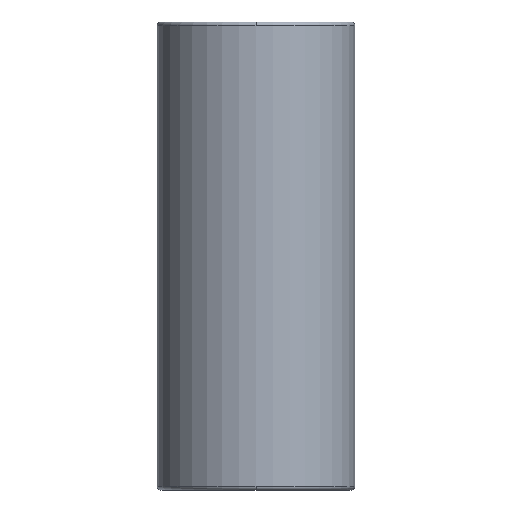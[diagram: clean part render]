
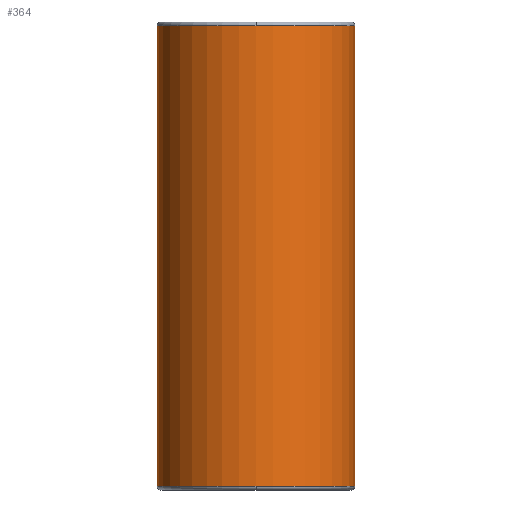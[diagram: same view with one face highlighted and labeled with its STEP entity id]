
A CAD part, front view. The second image highlights one B-rep face of the part: STEP entity #364.
In plain terms, the highlighted cylindrical face has radius 55.992 mm (diameter 111.984 mm), a partial arc.
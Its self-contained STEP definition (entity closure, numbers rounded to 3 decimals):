
#269=CARTESIAN_POINT('',(0.0,-55.992,263.0));
#270=VERTEX_POINT('',#269);
#296=CARTESIAN_POINT('',(-55.992,0.,263.0));
#297=VERTEX_POINT('',#296);
#305=CARTESIAN_POINT('',(0.0,0.,263.0));
#306=DIRECTION('',(0.0,0.0,1.0));
#307=DIRECTION('',(1.0,0.0,0.0));
#308=AXIS2_PLACEMENT_3D('',#305,#306,#307);
#309=CIRCLE('',#308,55.992);
#310=EDGE_CURVE('',#297,#270,#309,.T.);
#315=CARTESIAN_POINT('',(0.0,0.,132.5));
#316=DIRECTION('',(0.0,0.,1.0));
#317=DIRECTION('',(1.0,0.0,0.0));
#318=AXIS2_PLACEMENT_3D('',#315,#316,#317);
#319=CYLINDRICAL_SURFACE('',#318,55.992);
#320=CARTESIAN_POINT('',(55.992,0.,263.0));
#321=VERTEX_POINT('',#320);
#322=CARTESIAN_POINT('',(55.992,0.,2.));
#323=VERTEX_POINT('',#322);
#324=CARTESIAN_POINT('',(55.992,0.,263.0));
#325=DIRECTION('',(0.0,0.0,-1.0));
#326=VECTOR('',#325,261.0);
#327=LINE('',#324,#326);
#328=EDGE_CURVE('',#321,#323,#327,.T.);
#329=ORIENTED_EDGE('',*,*,#328,.F.);
#330=CARTESIAN_POINT('',(0.0,0.,263.0));
#331=DIRECTION('',(0.0,0.0,1.0));
#332=DIRECTION('',(1.0,0.0,0.0));
#333=AXIS2_PLACEMENT_3D('',#330,#331,#332);
#334=CIRCLE('',#333,55.992);
#335=EDGE_CURVE('',#270,#321,#334,.T.);
#336=ORIENTED_EDGE('',*,*,#335,.F.);
#337=ORIENTED_EDGE('',*,*,#310,.F.);
#338=CARTESIAN_POINT('',(-55.992,0.,2.0));
#339=VERTEX_POINT('',#338);
#340=CARTESIAN_POINT('',(-55.992,0.,263.0));
#341=DIRECTION('',(0.0,0.0,-1.0));
#342=VECTOR('',#341,261.0);
#343=LINE('',#340,#342);
#344=EDGE_CURVE('',#297,#339,#343,.T.);
#345=ORIENTED_EDGE('',*,*,#344,.T.);
#346=CARTESIAN_POINT('',(0.0,-55.992,2.));
#347=VERTEX_POINT('',#346);
#348=CARTESIAN_POINT('',(0.0,0.,2.0));
#349=DIRECTION('',(0.0,0.0,1.0));
#350=DIRECTION('',(1.0,0.0,0.0));
#351=AXIS2_PLACEMENT_3D('',#348,#349,#350);
#352=CIRCLE('',#351,55.992);
#353=EDGE_CURVE('',#339,#347,#352,.T.);
#354=ORIENTED_EDGE('',*,*,#353,.T.);
#355=CARTESIAN_POINT('',(0.0,0.,2.0));
#356=DIRECTION('',(0.0,0.0,1.0));
#357=DIRECTION('',(1.0,0.0,0.0));
#358=AXIS2_PLACEMENT_3D('',#355,#356,#357);
#359=CIRCLE('',#358,55.992);
#360=EDGE_CURVE('',#347,#323,#359,.T.);
#361=ORIENTED_EDGE('',*,*,#360,.T.);
#362=EDGE_LOOP('',(#329,#336,#337,#345,#354,#361));
#363=FACE_OUTER_BOUND('',#362,.T.);
#364=ADVANCED_FACE('',(#363),#319,.T.);
